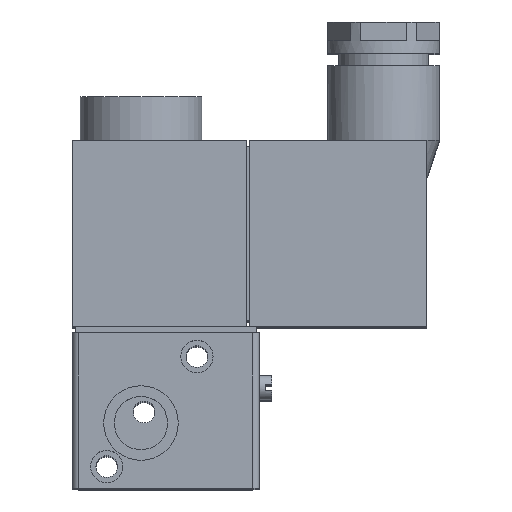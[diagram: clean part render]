
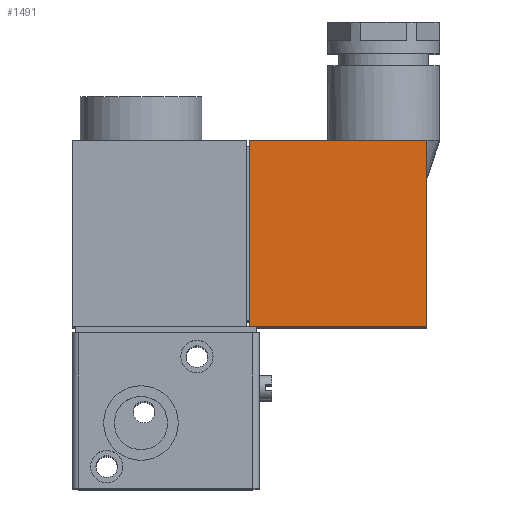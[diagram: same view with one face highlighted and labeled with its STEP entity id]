
A CAD part, top view. The second image highlights one B-rep face of the part: STEP entity #1491.
In plain terms, the highlighted planar face has unit normal (0, 0, 1).
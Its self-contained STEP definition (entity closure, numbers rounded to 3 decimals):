
#195=FACE_OUTER_BOUND('',#308,.T.);
#308=EDGE_LOOP('',(#1250,#1251,#1252,#1253));
#394=LINE('',#2486,#515);
#424=LINE('',#2550,#545);
#426=LINE('',#2556,#547);
#427=LINE('',#2558,#548);
#515=VECTOR('',#2032,1000.);
#545=VECTOR('',#2086,1000.);
#547=VECTOR('',#2094,1000.);
#548=VECTOR('',#2097,1000.);
#724=VERTEX_POINT('',#2483);
#725=VERTEX_POINT('',#2485);
#745=VERTEX_POINT('',#2544);
#747=VERTEX_POINT('',#2548);
#888=EDGE_CURVE('',#724,#725,#394,.T.);
#919=EDGE_CURVE('',#745,#747,#424,.T.);
#923=EDGE_CURVE('',#724,#745,#426,.T.);
#924=EDGE_CURVE('',#725,#747,#427,.T.);
#1250=ORIENTED_EDGE('',*,*,#919,.T.);
#1251=ORIENTED_EDGE('',*,*,#924,.F.);
#1252=ORIENTED_EDGE('',*,*,#888,.F.);
#1253=ORIENTED_EDGE('',*,*,#923,.T.);
#1407=PLANE('',#1706);
#1491=ADVANCED_FACE('',(#195),#1407,.F.);
#1706=AXIS2_PLACEMENT_3D('',#2557,#2095,#2096);
#2032=DIRECTION('',(0.,-1.,0.));
#2086=DIRECTION('',(0.,-1.,0.));
#2094=DIRECTION('',(-1.,0.,0.));
#2095=DIRECTION('center_axis',(0.,0.,-1.));
#2096=DIRECTION('ref_axis',(-1.,0.,0.));
#2097=DIRECTION('',(-1.,0.,0.));
#2483=CARTESIAN_POINT('',(57.,30.,22.));
#2485=CARTESIAN_POINT('',(57.,0.,22.));
#2486=CARTESIAN_POINT('',(57.,30.,22.));
#2544=CARTESIAN_POINT('',(28.5,30.,22.));
#2548=CARTESIAN_POINT('',(28.5,0.,22.));
#2550=CARTESIAN_POINT('',(28.5,30.,22.));
#2556=CARTESIAN_POINT('',(57.,30.,22.));
#2557=CARTESIAN_POINT('Origin',(57.,30.,22.));
#2558=CARTESIAN_POINT('',(57.,0.,22.));
